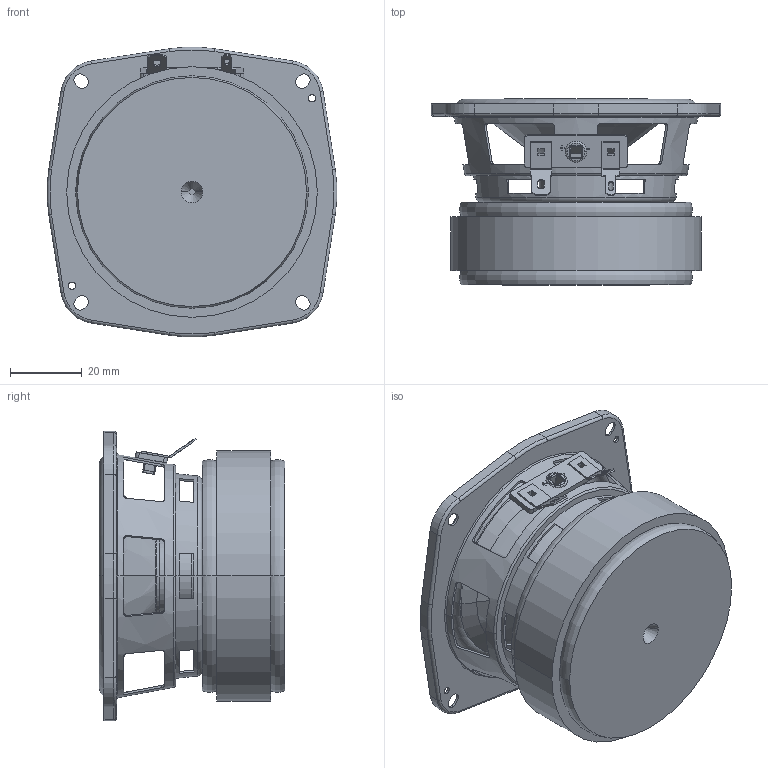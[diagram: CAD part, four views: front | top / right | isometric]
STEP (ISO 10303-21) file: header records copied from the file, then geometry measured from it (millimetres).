
FILE_DESCRIPTION((''),'2;1');
FILE_NAME('CE81PF-8','2023-09-23T13:44:41',('54257'),(''),'Dayton Audio, 2020053','Dayton Audio, 2020053','');
FILE_SCHEMA(('CONFIG_CONTROL_DESIGN','SHAPE_APPEARANCE_LAYERS_GROUPS'));
Length unit declared in the file: millimetre
Products named in the file (14): HF-1; HP_1; HM_1; HY_1; HV_1; HC-1_1; HD_1; 1_0_01; 1-1; 3_0_1; 4_0_1; HT-1_ASM; TY-01; ST-2G13_ASM
Assembly tree (13 placements, depth 3):
  ST-2G13_ASM
    HF-1
    HP_1
    HM_1
    HY_1
    HV_1
    HC-1_1
    HD_1
    HT-1_ASM
      1_0_01
      1-1
      3_0_1
      4_0_1
    TY-01
Bounding box: 80.89 x 51.85 x 80.89 mm (x, y, z)
Volume: 86443.7 mm3; surface area: 63489 mm2
Topology: 13 solids, 13 shells, 490 faces, 1208 edges, 754 vertices
Faces by surface type: plane 226, cylinder 154, torus 72, cone 34, sphere 4
Entity records: 22255 total; most frequent: CARTESIAN_POINT 3037, DIRECTION 2644, ORIENTED_EDGE 2408, PRESENTATION_STYLE_ASSIGNMENT 1667, STYLED_ITEM 1667, EDGE_CURVE 1204, CURVE_STYLE 1178, AXIS2_PLACEMENT_3D 1023
